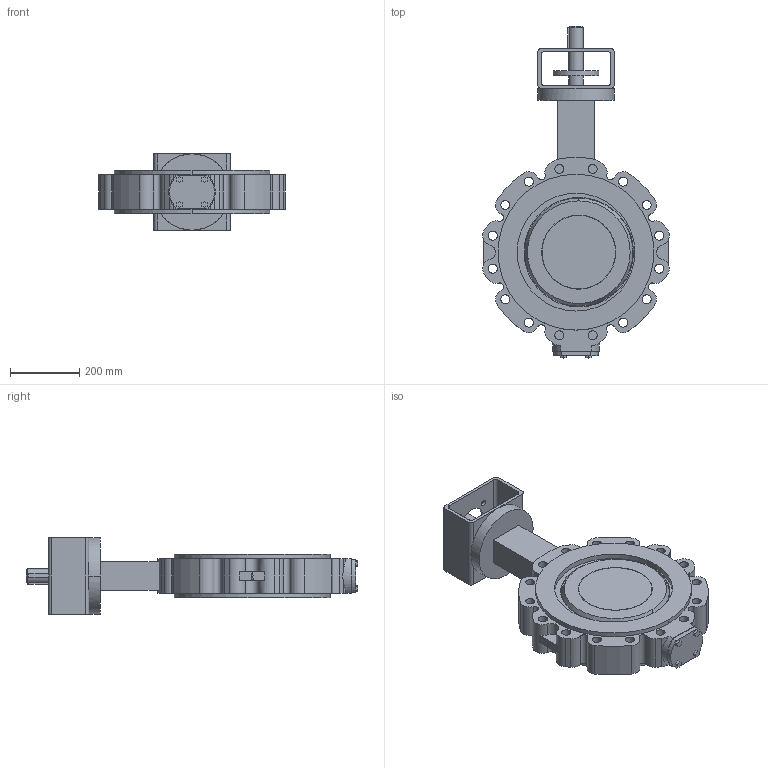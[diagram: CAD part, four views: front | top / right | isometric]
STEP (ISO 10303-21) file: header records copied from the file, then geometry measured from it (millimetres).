
FILE_DESCRIPTION( ( '' ), '1' );
FILE_NAME( 'F:/DE-SHS/TB/OR/04-Sonstiges/daten/files_3d/018_ZETRIX-PN10_freiesWellende/c000006374.stp', '2016-09-01T11:05:18', ( '' ), ( '' ), ' ', ' ', ' ' );
FILE_SCHEMA( ( 'CONFIG_CONTROL_DESIGN' ) );
Length unit declared in the file: millimetre
Products named in the file (1): 1
Bounding box: 538.08 x 958.4 x 220 mm (x, y, z)
Volume: 22971601.5 mm3; surface area: 1414201.3 mm2
Topology: 1 solids, 1 shells, 290 faces, 770 edges, 512 vertices
Faces by surface type: cylinder 163, plane 119, sphere 4, cone 4
Entity records: 9934 total; most frequent: CARTESIAN_POINT 2283, DIRECTION 1676, ORIENTED_EDGE 1540, EDGE_CURVE 770, AXIS2_PLACEMENT_3D 645, VERTEX_POINT 512, LINE 386, VECTOR 386
